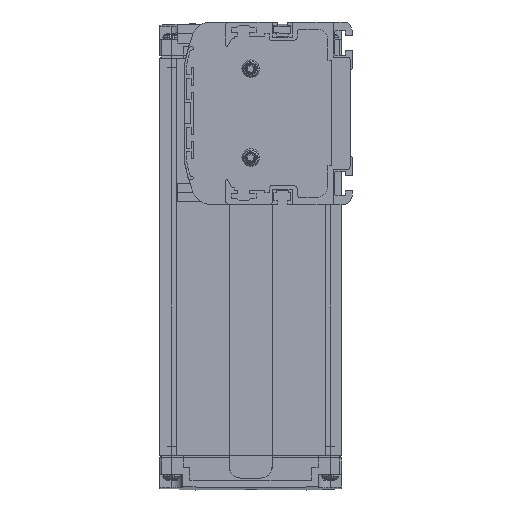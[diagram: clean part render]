
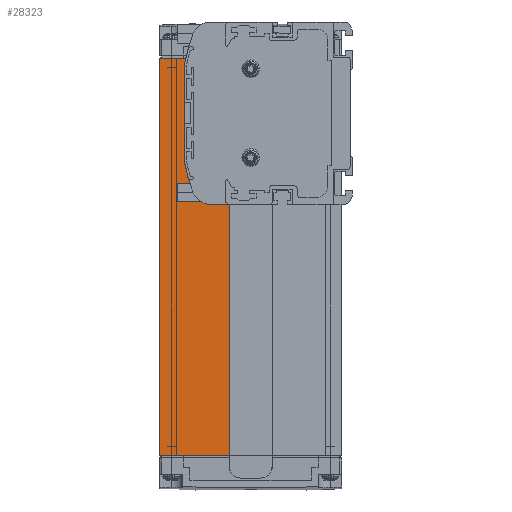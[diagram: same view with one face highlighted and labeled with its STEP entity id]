
A CAD part, left-side view. The second image highlights one B-rep face of the part: STEP entity #28323.
In plain terms, the highlighted planar face has unit normal (-1, 0, 0).
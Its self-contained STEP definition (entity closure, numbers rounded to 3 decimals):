
#4619=DIRECTION('',(0.,-1.,0.));
#4620=VECTOR('',#4619,8.155);
#4621=CARTESIAN_POINT('',(3.,60.755,-39.));
#4622=LINE('',#4621,#4620);
#4657=DIRECTION('',(0.,-1.,0.));
#4658=VECTOR('',#4657,29.9);
#4659=CARTESIAN_POINT('',(3.,82.5,-146.5));
#4660=LINE('',#4659,#4658);
#4661=DIRECTION('',(0.,1.,0.));
#4662=VECTOR('',#4661,11.203);
#4663=CARTESIAN_POINT('',(3.,71.297,23.5));
#4664=LINE('',#4663,#4662);
#4681=DIRECTION('',(0.,0.,1.));
#4682=VECTOR('',#4681,107.5);
#4683=CARTESIAN_POINT('',(3.,52.6,-146.5));
#4684=LINE('',#4683,#4682);
#4685=DIRECTION('',(0.,1.,0.));
#4686=VECTOR('',#4685,0.209);
#4687=CARTESIAN_POINT('',(3.,70.291,-27.5));
#4688=LINE('',#4687,#4686);
#4709=DIRECTION('',(0.,0.,1.));
#4710=VECTOR('',#4709,0.762);
#4711=CARTESIAN_POINT('',(3.,70.5,-27.5));
#4712=LINE('',#4711,#4710);
#7750=DIRECTION('',(0.,0.,1.));
#7751=VECTOR('',#7750,170.);
#7752=CARTESIAN_POINT('',(3.,82.5,-146.5));
#7753=LINE('',#7752,#7751);
#10714=CARTESIAN_POINT('',(3.,-6.765,6.));
#10715=DIRECTION('',(1.,0.,0.));
#10716=DIRECTION('',(0.,0.984,0.177));
#10717=AXIS2_PLACEMENT_3D('',#10714,#10715,#10716);
#10719=CARTESIAN_POINT('',(3.,70.,19.823));
#10720=DIRECTION('',(1.,0.,0.));
#10721=DIRECTION('',(0.,1.,0.));
#10722=AXIS2_PLACEMENT_3D('',#10719,#10720,#10721);
#10728=DIRECTION('',(0.,0.,1.));
#10729=VECTOR('',#10728,39.645);
#10730=CARTESIAN_POINT('',(3.,72.,-19.823));
#10731=LINE('',#10730,#10729);
#10736=CARTESIAN_POINT('',(3.,70.,-19.823));
#10737=DIRECTION('',(-1.,0.,0.));
#10738=DIRECTION('',(0.,1.,0.));
#10739=AXIS2_PLACEMENT_3D('',#10736,#10737,#10738);
#10749=CARTESIAN_POINT('',(3.,-6.765,-6.));
#10750=DIRECTION('',(1.,0.,0.));
#10751=DIRECTION('',(0.,0.938,-0.347));
#10752=AXIS2_PLACEMENT_3D('',#10749,#10750,#10751);
#10754=CARTESIAN_POINT('',(3.,-6.765,-6.));
#10755=DIRECTION('',(1.,0.,0.));
#10756=DIRECTION('',(0.,0.966,-0.259));
#10757=AXIS2_PLACEMENT_3D('',#10754,#10755,#10756);
#10763=CARTESIAN_POINT('',(3.,60.755,-31.));
#10764=DIRECTION('',(1.,0.,0.));
#10765=DIRECTION('',(0.,0.,-1.));
#10766=AXIS2_PLACEMENT_3D('',#10763,#10764,#10765);
#17871=CARTESIAN_POINT('',(3.,82.5,23.5));
#17872=VERTEX_POINT('',#17871);
#17917=CARTESIAN_POINT('',(3.,82.5,-146.5));
#17918=VERTEX_POINT('',#17917);
#17919=CARTESIAN_POINT('',(3.,52.6,-146.5));
#17920=VERTEX_POINT('',#17919);
#17949=CARTESIAN_POINT('',(3.,70.5,-27.5));
#17951=VERTEX_POINT('',#17949);
#22024=CARTESIAN_POINT('',(3.,60.755,-39.));
#22025=CARTESIAN_POINT('',(3.,52.6,-39.));
#22026=VERTEX_POINT('',#22024);
#22027=VERTEX_POINT('',#22025);
#22028=CARTESIAN_POINT('',(3.,71.297,23.5));
#22030=VERTEX_POINT('',#22028);
#22038=CARTESIAN_POINT('',(3.,70.5,-26.738));
#22039=VERTEX_POINT('',#22038);
#22042=CARTESIAN_POINT('',(3.,70.291,-27.5));
#22044=VERTEX_POINT('',#22042);
#22054=CARTESIAN_POINT('',(3.,72.,19.823));
#22055=CARTESIAN_POINT('',(3.,71.968,20.177));
#22056=VERTEX_POINT('',#22054);
#22057=VERTEX_POINT('',#22055);
#22070=CARTESIAN_POINT('',(3.,68.257,-33.778));
#22071=VERTEX_POINT('',#22070);
#22072=CARTESIAN_POINT('',(3.,71.968,-20.177));
#22073=VERTEX_POINT('',#22072);
#22074=CARTESIAN_POINT('',(3.,72.,-19.823));
#22075=VERTEX_POINT('',#22074);
#28290=CARTESIAN_POINT('',(3.,67.55,-61.5));
#28291=DIRECTION('',(1.,0.,0.));
#28292=DIRECTION('',(0.,1.,0.));
#28293=AXIS2_PLACEMENT_3D('',#28290,#28291,#28292);
#28294=PLANE('',#28293);
#28295=ORIENTED_EDGE('',*,*,#28258,.T.);
#28297=ORIENTED_EDGE('',*,*,#28296,.F.);
#28299=ORIENTED_EDGE('',*,*,#28298,.F.);
#28301=ORIENTED_EDGE('',*,*,#28300,.T.);
#28302=ORIENTED_EDGE('',*,*,#22774,.F.);
#28304=ORIENTED_EDGE('',*,*,#28303,.F.);
#28306=ORIENTED_EDGE('',*,*,#28305,.F.);
#28308=ORIENTED_EDGE('',*,*,#28307,.F.);
#28310=ORIENTED_EDGE('',*,*,#28309,.T.);
#28312=ORIENTED_EDGE('',*,*,#28311,.F.);
#28314=ORIENTED_EDGE('',*,*,#28313,.F.);
#28316=ORIENTED_EDGE('',*,*,#28315,.F.);
#28318=ORIENTED_EDGE('',*,*,#28317,.F.);
#28320=ORIENTED_EDGE('',*,*,#28319,.F.);
#28321=EDGE_LOOP('',(#28295,#28297,#28299,#28301,#28302,#28304,#28306,#28308,
#28310,#28312,#28314,#28316,#28318,#28320));
#28322=FACE_OUTER_BOUND('',#28321,.F.);
#28323=ADVANCED_FACE('',(#28322),#28294,.F.);
#10718=CIRCLE('',#10717,80.);
#10723=CIRCLE('',#10722,2.);
#10740=CIRCLE('',#10739,2.);
#10753=CIRCLE('',#10752,80.);
#10758=CIRCLE('',#10757,80.);
#10767=CIRCLE('',#10766,8.);
#22774=EDGE_CURVE('',#22030,#17872,#4664,.T.);
#28258=EDGE_CURVE('',#22026,#22027,#4622,.T.);
#28296=EDGE_CURVE('',#17920,#22027,#4684,.T.);
#28298=EDGE_CURVE('',#17918,#17920,#4660,.T.);
#28300=EDGE_CURVE('',#17918,#17872,#7753,.T.);
#28303=EDGE_CURVE('',#22057,#22030,#10718,.T.);
#28305=EDGE_CURVE('',#22056,#22057,#10723,.T.);
#28307=EDGE_CURVE('',#22075,#22056,#10731,.T.);
#28309=EDGE_CURVE('',#22075,#22073,#10740,.T.);
#28311=EDGE_CURVE('',#22039,#22073,#10758,.T.);
#28313=EDGE_CURVE('',#17951,#22039,#4712,.T.);
#28315=EDGE_CURVE('',#22044,#17951,#4688,.T.);
#28317=EDGE_CURVE('',#22071,#22044,#10753,.T.);
#28319=EDGE_CURVE('',#22026,#22071,#10767,.T.);
